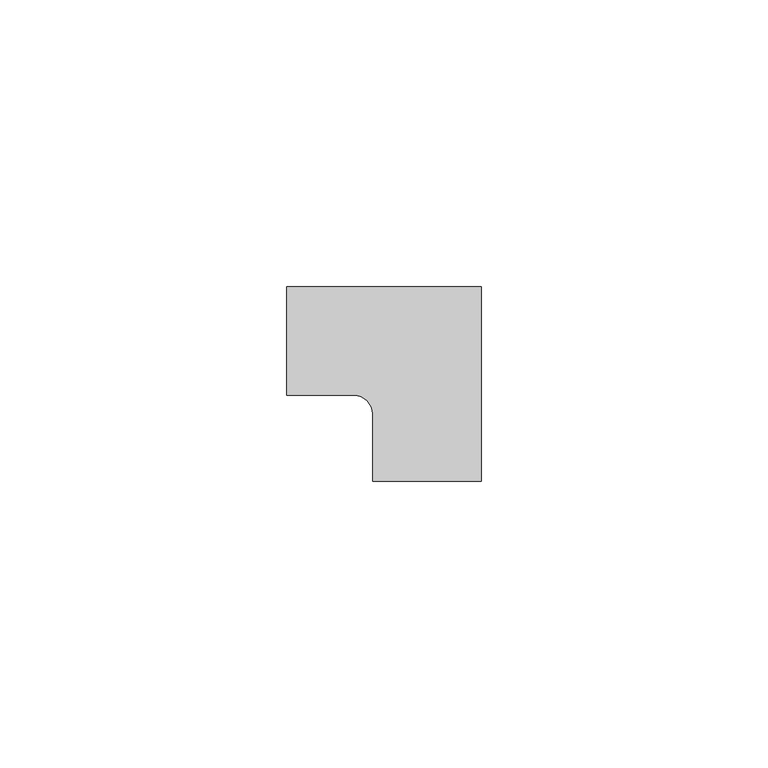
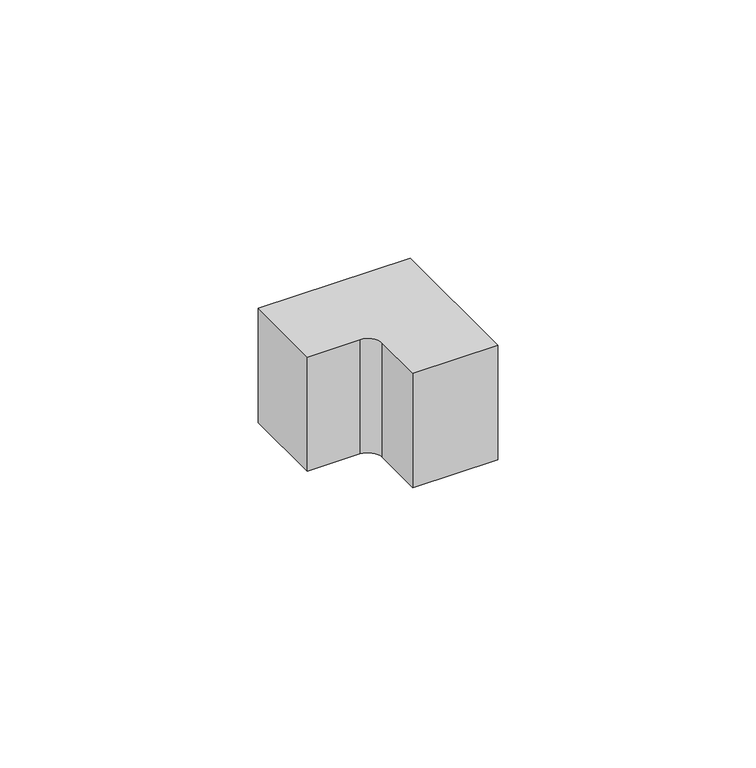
"""IFC4 building model written with IfcOpenShell, lengths in millimetres: proxy geometry, Внутренний_угол_КМВ : Внутренний угол КМВ 25х16."""

from ifc_helpers import new_model, si_unit, point, frame_2d, origin, origin_with_axes, place, context, project, spatial, polyline, circle_curve, trimmed, segment, composite_curve, outline, extrude, source, transform, mapped, element, save


def generic_models_e5a57173(model_context):
    return source(origin(), model_context, "Body", "SweptSolid", [
        extrude(outline(composite_curve([segment(polyline([(-15.0, 0.0), (-15.0, 19.0), (19.0114701, 19.0), (19.0114701, -15.0), (0.0, -15.0), (0.0, -3.184906)]), True, "CONTINUOUS"), segment(trimmed(circle_curve(frame_2d((-3.184906, -3.184906)), 3.184906), [point((0.0, -3.184906))], [point((-3.184906, 0.0))], True, "CARTESIAN"), True, "CONTINUOUS"), segment(polyline([(-3.184906, 0.0), (-15.0, 0.0)]), True, "CONTINUOUS")], self_intersect=False)), origin_with_axes(), (0.0, 0.0, 1.0), 27.0303508),
    ])


if __name__ == "__main__":
    model = new_model("IFC4")
    model_context = context("Model", 3, world=origin())
    ifc_project = project(units=[si_unit("LENGTHUNIT", "METRE", prefix="MILLI")], contexts=[model_context])
    site = spatial("IfcSite", under=ifc_project)
    building = spatial("IfcBuilding", under=site)
    placement = place(None, origin())
    generic_models_shape = generic_models_e5a57173(model_context)
    element("IfcBuildingElementProxy", 1, Name="Внутренний_угол_КМВ : Внутренний угол КМВ 25х16", ObjectType="Внутренний_угол_КМВ : Внутренний угол КМВ 25х16", at=placement, inside=building, context=model_context, shape_type="MappedRepresentation", body=[
        mapped(generic_models_shape, transform((0.0, 0.0, 0.0), x_axis=(1.0, 0.0, 0.0), y_axis=(0.0, 1.0, 0.0), z_axis=(0.0, 0.0, 1.0))),
    ])
    save(model, "model.ifc")
